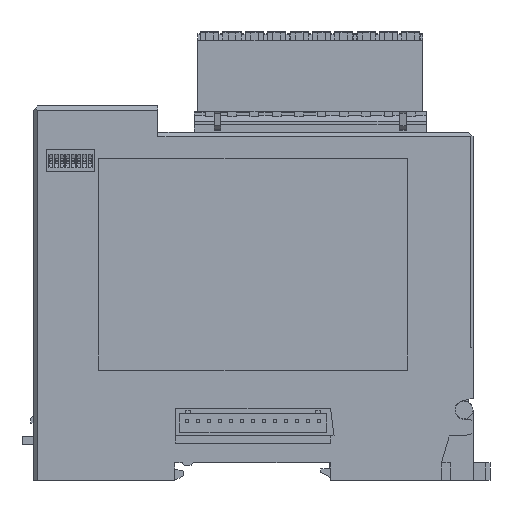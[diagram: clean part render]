
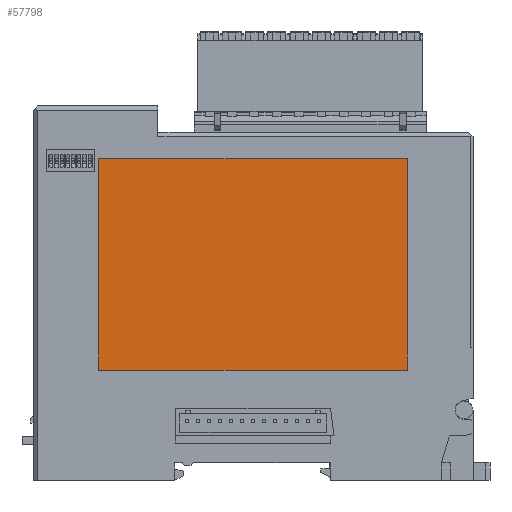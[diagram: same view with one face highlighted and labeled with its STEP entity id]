
A CAD part, left-side view. The second image highlights one B-rep face of the part: STEP entity #57798.
In plain terms, the highlighted planar face has unit normal (-1, 0, 0).
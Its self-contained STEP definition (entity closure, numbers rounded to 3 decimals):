
#712 = LINE ( 'NONE', #84397, #15441 ) ;
#1992 = LINE ( 'NONE', #40521, #21688 ) ;
#8419 = CARTESIAN_POINT ( 'NONE',  ( -14.7, -35., -17.46 ) ) ;
#8465 = EDGE_CURVE ( 'NONE', #10567, #89635, #712, .T. ) ;
#10323 = ORIENTED_EDGE ( 'NONE', *, *, #88437, .T. ) ;
#10567 = VERTEX_POINT ( 'NONE', #58990 ) ;
#15064 = CARTESIAN_POINT ( 'NONE',  ( -14.7, -35., 30.55 ) ) ;
#15441 = VECTOR ( 'NONE', #69844, 1000. ) ;
#20256 = CARTESIAN_POINT ( 'NONE',  ( -14.7, 0., 0. ) ) ;
#20750 = PLANE ( 'NONE',  #40382 ) ;
#21436 = EDGE_LOOP ( 'NONE', ( #43926, #86461, #10323, #62705 ) ) ;
#21688 = VECTOR ( 'NONE', #47570, 1000. ) ;
#27134 = VERTEX_POINT ( 'NONE', #15064 ) ;
#39086 = CARTESIAN_POINT ( 'NONE',  ( -14.7, 35.01, -17.46 ) ) ;
#40382 = AXIS2_PLACEMENT_3D ( 'NONE', #20256, #88388, #43247 ) ;
#40521 = CARTESIAN_POINT ( 'NONE',  ( -14.7, -35., -17.46 ) ) ;
#43247 = DIRECTION ( 'NONE',  ( 0., 0., 1. ) ) ;
#43484 = VECTOR ( 'NONE', #75515, 1000. ) ;
#43926 = ORIENTED_EDGE ( 'NONE', *, *, #75838, .T. ) ;
#47570 = DIRECTION ( 'NONE',  ( 0., 0., 1. ) ) ;
#51094 = CARTESIAN_POINT ( 'NONE',  ( -14.7, 35.01, -17.46 ) ) ;
#51941 = CARTESIAN_POINT ( 'NONE',  ( -14.7, 35.01, 30.55 ) ) ;
#57157 = VERTEX_POINT ( 'NONE', #8419 ) ;
#57798 = ADVANCED_FACE ( 'NONE', ( #81371 ), #20750, .T. ) ;
#58990 = CARTESIAN_POINT ( 'NONE',  ( -14.7, 35.01, 30.55 ) ) ;
#60118 = LINE ( 'NONE', #51094, #66852 ) ;
#62705 = ORIENTED_EDGE ( 'NONE', *, *, #8465, .T. ) ;
#63045 = EDGE_CURVE ( 'NONE', #57157, #27134, #1992, .T. ) ;
#66852 = VECTOR ( 'NONE', #98209, 1000. ) ;
#69844 = DIRECTION ( 'NONE',  ( 0., 0., -1. ) ) ;
#75515 = DIRECTION ( 'NONE',  ( 0., 1., 0. ) ) ;
#75838 = EDGE_CURVE ( 'NONE', #89635, #57157, #60118, .T. ) ;
#81371 = FACE_OUTER_BOUND ( 'NONE', #21436, .T. ) ;
#84397 = CARTESIAN_POINT ( 'NONE',  ( -14.7, 35.01, -17.46 ) ) ;
#86461 = ORIENTED_EDGE ( 'NONE', *, *, #63045, .T. ) ;
#88388 = DIRECTION ( 'NONE',  ( -1., 0., 0. ) ) ;
#88437 = EDGE_CURVE ( 'NONE', #27134, #10567, #89549, .T. ) ;
#89549 = LINE ( 'NONE', #51941, #43484 ) ;
#89635 = VERTEX_POINT ( 'NONE', #39086 ) ;
#98209 = DIRECTION ( 'NONE',  ( 0., -1., 0. ) ) ;
